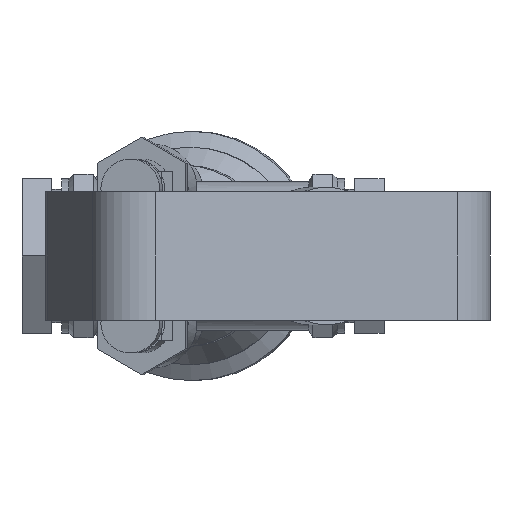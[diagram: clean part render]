
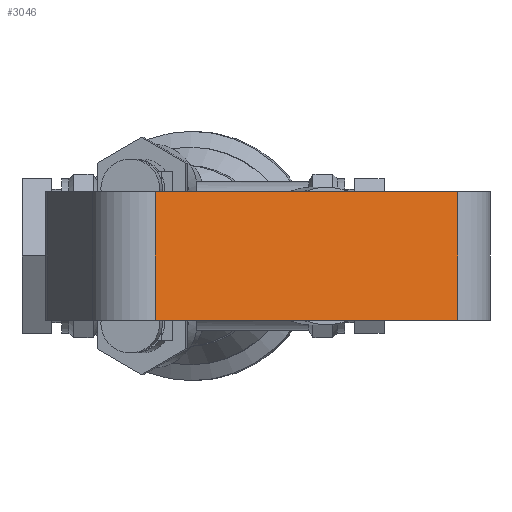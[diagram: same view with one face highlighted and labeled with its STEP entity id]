
A CAD part, front view. The second image highlights one B-rep face of the part: STEP entity #3046.
In plain terms, the highlighted planar face has unit normal (0.342, -0.94, 0).
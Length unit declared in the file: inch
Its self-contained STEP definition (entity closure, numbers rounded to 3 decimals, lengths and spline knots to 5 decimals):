
#106=PLANE('',#3371);
#243=FACE_OUTER_BOUND('',#422,.T.);
#422=EDGE_LOOP('',(#2139,#2140,#2141,#2142));
#610=LINE('',#4988,#852);
#617=LINE('',#5023,#859);
#618=LINE('',#5026,#860);
#619=LINE('',#5027,#861);
#852=VECTOR('',#3821,0.3937);
#859=VECTOR('',#3860,0.3937);
#860=VECTOR('',#3863,0.3937);
#861=VECTOR('',#3864,0.3937);
#1303=VERTEX_POINT('',#4985);
#1304=VERTEX_POINT('',#4987);
#1316=VERTEX_POINT('',#5021);
#1317=VERTEX_POINT('',#5025);
#1616=EDGE_CURVE('',#1303,#1304,#610,.T.);
#1633=EDGE_CURVE('',#1316,#1303,#617,.T.);
#1634=EDGE_CURVE('',#1317,#1316,#618,.T.);
#1635=EDGE_CURVE('',#1317,#1304,#619,.T.);
#2139=ORIENTED_EDGE('',*,*,#1633,.F.);
#2140=ORIENTED_EDGE('',*,*,#1634,.F.);
#2141=ORIENTED_EDGE('',*,*,#1635,.T.);
#2142=ORIENTED_EDGE('',*,*,#1616,.F.);
#3046=ADVANCED_FACE('',(#243),#106,.T.);
#3371=AXIS2_PLACEMENT_3D('',#5024,#3861,#3862);
#3821=DIRECTION('',(-0.94,-0.342,0.));
#3860=DIRECTION('',(0.,0.,-1.));
#3861=DIRECTION('center_axis',(0.342,-0.94,0.));
#3862=DIRECTION('ref_axis',(0.94,0.342,0.));
#3863=DIRECTION('',(0.94,0.342,0.));
#3864=DIRECTION('',(0.,0.,-1.));
#4985=CARTESIAN_POINT('',(2.57193,-5.0776,-0.65));
#4987=CARTESIAN_POINT('',(-0.48393,-6.18985,-0.65));
#4988=CARTESIAN_POINT('',(2.57193,-5.0776,-0.65));
#5021=CARTESIAN_POINT('',(2.57193,-5.0776,0.65));
#5023=CARTESIAN_POINT('',(2.57193,-5.0776,0.));
#5024=CARTESIAN_POINT('Origin',(-0.48393,-6.18985,0.));
#5025=CARTESIAN_POINT('',(-0.48393,-6.18985,0.65));
#5026=CARTESIAN_POINT('',(2.57193,-5.0776,0.65));
#5027=CARTESIAN_POINT('',(-0.48393,-6.18985,0.));
